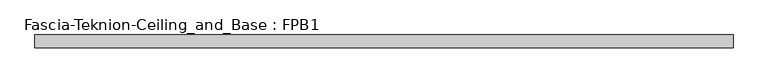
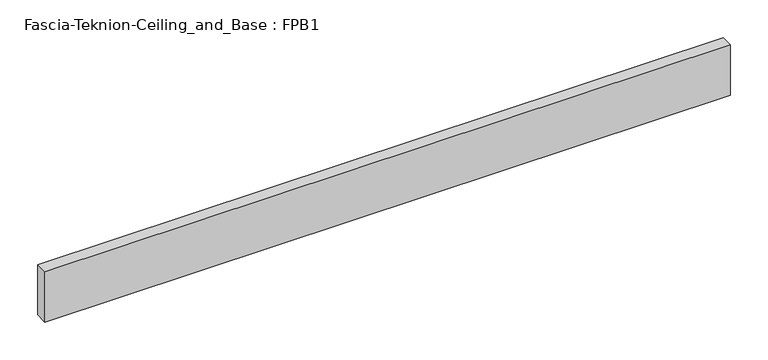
"""IFC4 building model written with IfcOpenShell, lengths in millimetres: proxy geometry, Fascia-Teknion-Ceiling_and_Base : FPB1."""

from ifc_helpers import new_model, si_unit, origin, origin_with_axes, place, context, project, spatial, polyline, outline, extrude, source, transform, mapped, element, save


def fascia_teknion_ceiling_and_base_fpb1_c9d9d0ac(model_context):
    return source(origin(), model_context, "Body", "SweptSolid", [
        extrude(outline(polyline([(523.875, 0.0), (-523.875, 0.0), (-523.875, 19.05), (523.875, 19.05), (523.875, 0.0)])), origin_with_axes(), (0.0, 0.0, 1.0), 81.28),
    ])


if __name__ == "__main__":
    model = new_model("IFC4")
    model_context = context("Model", 3, world=origin())
    ifc_project = project(units=[si_unit("LENGTHUNIT", "METRE", prefix="MILLI")], contexts=[model_context])
    site = spatial("IfcSite", under=ifc_project)
    building = spatial("IfcBuilding", under=site)
    placement = place(None, origin())
    fascia_teknion_ceiling_and_base_fpb1_shape = fascia_teknion_ceiling_and_base_fpb1_c9d9d0ac(model_context)
    element("IfcBuildingElementProxy", 1, Name="Fascia-Teknion-Ceiling_and_Base : FPB1", ObjectType="Fascia-Teknion-Ceiling_and_Base : FPB1", at=placement, inside=building, context=model_context, shape_type="MappedRepresentation", body=[
        mapped(fascia_teknion_ceiling_and_base_fpb1_shape, transform((0.0, 0.0, 0.0), x_axis=(1.0, 0.0, 0.0), y_axis=(0.0, 1.0, 0.0), z_axis=(0.0, 0.0, 1.0))),
    ])
    save(model, "model.ifc")
